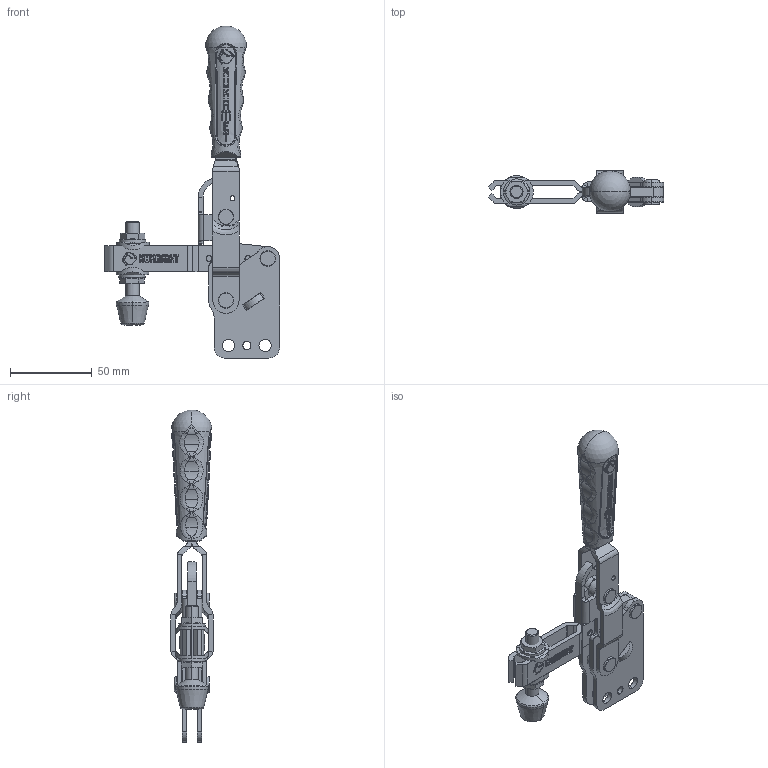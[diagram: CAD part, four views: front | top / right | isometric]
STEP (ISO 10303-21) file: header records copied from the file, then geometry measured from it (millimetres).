
FILE_DESCRIPTION(('STEP AP203'),'1');
FILE_NAME('212-3.stp','2023-09-12T08:42:37',('TraceParts'),('TraceParts S.A.'),'Spatial InterOp 3D',' ',' ');
FILE_SCHEMA(('CONFIG_CONTROL_DESIGN'));
Length unit declared in the file: millimetre
Products named in the file (1): 1
Bounding box: 107 x 25.7 x 202.68 mm (x, y, z)
Volume: 74303.7 mm3; surface area: 45548 mm2
Topology: 8 solids, 11 shells, 2394 faces, 6164 edges, 3749 vertices
Faces by surface type: cylinder 875, plane 720, bspline 552, torus 153, cone 66, sphere 28
Entity records: 90215 total; most frequent: CARTESIAN_POINT 35867, ORIENTED_EDGE 12102, DIRECTION 10609, EDGE_CURVE 6051, AXIS2_PLACEMENT_3D 4160, VERTEX_POINT 3748, EDGE_LOOP 2505, ADVANCED_FACE 2394
